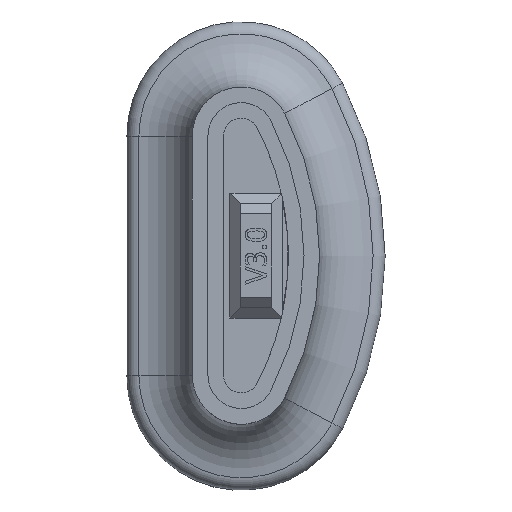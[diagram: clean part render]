
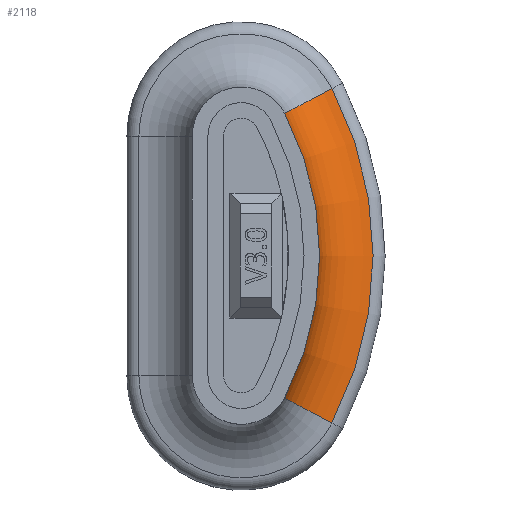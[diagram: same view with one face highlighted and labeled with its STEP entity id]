
A CAD part, top view. The second image highlights one B-rep face of the part: STEP entity #2118.
In plain terms, the highlighted toroidal (fillet/blend) face has major radius 35.239 mm and minor radius 5.739 mm.
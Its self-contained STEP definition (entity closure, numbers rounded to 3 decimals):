
#20=TOROIDAL_SURFACE('',#2269,35.239,5.739);
#63=CIRCLE('',#2234,5.739);
#87=CIRCLE('',#2268,29.5);
#88=CIRCLE('',#2270,5.739);
#89=CIRCLE('',#2271,34.636);
#270=FACE_OUTER_BOUND('',#395,.T.);
#395=EDGE_LOOP('',(#1735,#1736,#1737,#1738));
#951=VERTEX_POINT('',#3642);
#955=VERTEX_POINT('',#3651);
#974=VERTEX_POINT('',#3709);
#976=VERTEX_POINT('',#3715);
#1206=EDGE_CURVE('',#955,#951,#63,.T.);
#1237=EDGE_CURVE('',#974,#951,#87,.T.);
#1238=EDGE_CURVE('',#976,#974,#88,.T.);
#1239=EDGE_CURVE('',#976,#955,#89,.T.);
#1735=ORIENTED_EDGE('',*,*,#1238,.T.);
#1736=ORIENTED_EDGE('',*,*,#1237,.T.);
#1737=ORIENTED_EDGE('',*,*,#1206,.F.);
#1738=ORIENTED_EDGE('',*,*,#1239,.F.);
#2118=ADVANCED_FACE('',(#270),#20,.F.);
#2234=AXIS2_PLACEMENT_3D('',#3652,#2590,#2591);
#2268=AXIS2_PLACEMENT_3D('',#3713,#2665,#2666);
#2269=AXIS2_PLACEMENT_3D('',#3714,#2667,#2668);
#2270=AXIS2_PLACEMENT_3D('',#3716,#2669,#2670);
#2271=AXIS2_PLACEMENT_3D('',#3717,#2671,#2672);
#2590=DIRECTION('center_axis',(0.464,0.886,0.));
#2591=DIRECTION('ref_axis',(0.886,-0.464,0.));
#2665=DIRECTION('center_axis',(0.,0.,-1.));
#2666=DIRECTION('ref_axis',(0.886,0.464,0.));
#2667=DIRECTION('center_axis',(0.,0.,-1.));
#2668=DIRECTION('ref_axis',(0.886,0.464,0.));
#2669=DIRECTION('center_axis',(-0.464,0.886,0.));
#2670=DIRECTION('ref_axis',(0.886,0.464,0.));
#2671=DIRECTION('center_axis',(0.,0.,
-1.));
#2672=DIRECTION('ref_axis',(0.886,0.464,0.));
#3642=CARTESIAN_POINT('',(2.75,-13.679,41.267));
#3651=CARTESIAN_POINT('',(7.301,-16.061,35.559));
#3652=CARTESIAN_POINT('Origin',(7.835,-16.341,41.267));
#3709=CARTESIAN_POINT('',(2.75,13.679,41.267));
#3713=CARTESIAN_POINT('Origin',(-23.386,0.,41.267));
#3714=CARTESIAN_POINT('Origin',(-23.386,0.,41.267));
#3715=CARTESIAN_POINT('',(7.301,16.061,35.559));
#3716=CARTESIAN_POINT('Origin',(7.835,16.341,41.267));
#3717=CARTESIAN_POINT('Origin',(-23.386,0.,35.559));
